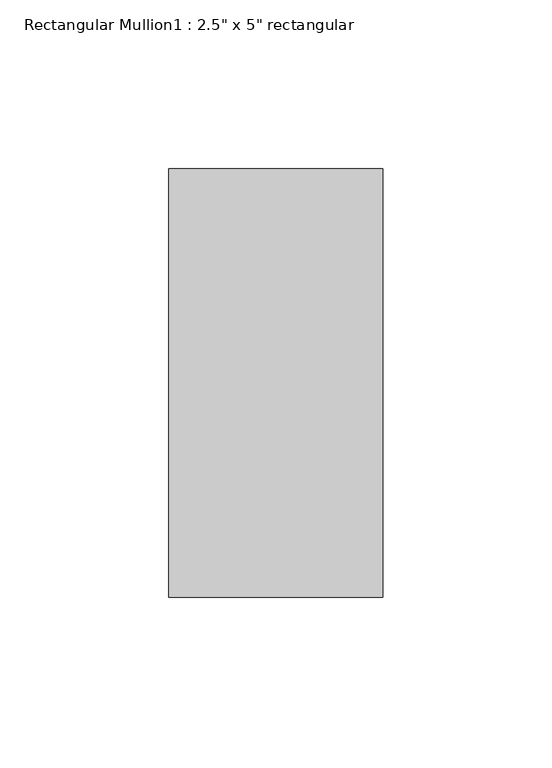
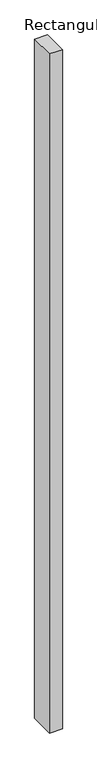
"""IFC4 building model written with IfcOpenShell, lengths in millimetres: member geometry."""

from ifc_helpers import new_model, si_unit, frame, origin, place, context, project, spatial, polyline, outline, extrude, source, transform, mapped, element, save


def member_5825c931(model_context):
    return source(origin(), model_context, "Body", "SweptSolid", [
        extrude(outline(polyline([(31.75, 63.5), (31.75, -63.5), (-31.75, -63.5), (-31.75, 63.5), (31.75, 63.5)])), frame((0.0, 0.0, -3556.0), z_axis=(0.0, 0.0, 1.0), x_axis=(1.0, 0.0, 0.0)), (0.0, 0.0, 1.0), 3556.0),
    ])


if __name__ == "__main__":
    model = new_model("IFC4")
    model_context = context("Model", 3, world=origin())
    ifc_project = project(units=[si_unit("LENGTHUNIT", "METRE", prefix="MILLI")], contexts=[model_context])
    site = spatial("IfcSite", under=ifc_project)
    building = spatial("IfcBuilding", under=site)
    placement = place(None, origin())
    member_shape = member_5825c931(model_context)
    element("IfcMember", 1, ObjectType="Rectangular Mullion1 : 2.5\" x 5\" rectangular", at=placement, inside=building, context=model_context, shape_type="MappedRepresentation", body=[
        mapped(member_shape, transform((0.0, 0.0, 0.0), x_axis=(1.0, 0.0, 0.0), y_axis=(0.0, 1.0, 0.0), z_axis=(0.0, 0.0, 1.0))),
    ])
    save(model, "model.ifc")
